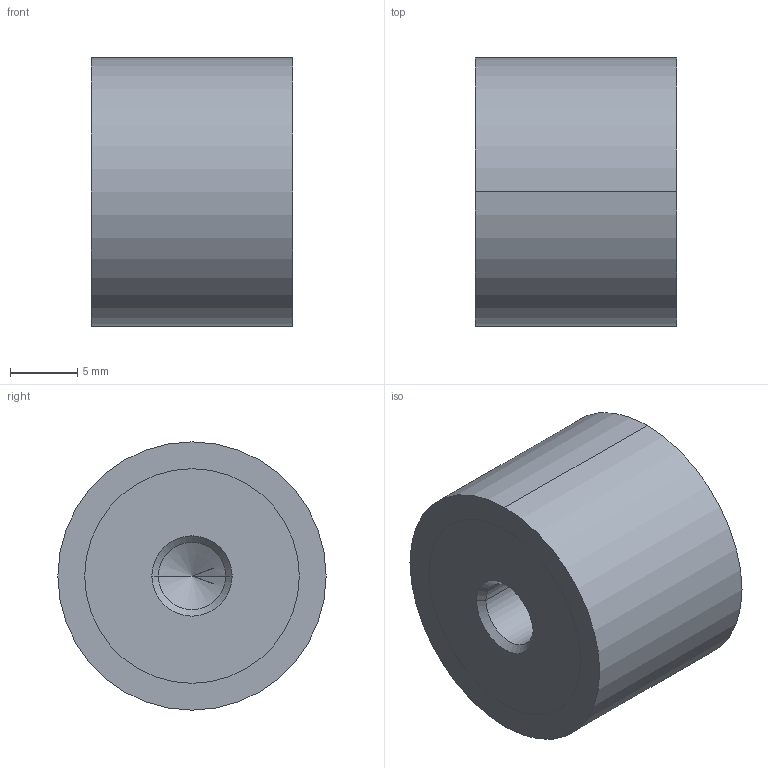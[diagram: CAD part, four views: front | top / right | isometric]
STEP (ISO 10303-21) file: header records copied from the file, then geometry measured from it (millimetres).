
FILE_DESCRIPTION (( 'STEP AP214' ), '1' );
FILE_NAME ('351-20-15-M6-EE-70.step', '2025-07-23T09:39:43', ( '' ), ( '' ), 'SwSTEP 2.0', 'SolidWorks 2022', '' );
FILE_SCHEMA (( 'AUTOMOTIVE_DESIGN' ));
Length unit declared in the file: millimetre
Products named in the file (1): 351-20-15-M6-EE-70
Bounding box: 15 x 20 x 20 mm (x, y, z)
Volume: 4451 mm3; surface area: 1757.2 mm2
Topology: 1 solids, 1 shells, 28 faces, 58 edges, 34 vertices
Faces by surface type: cylinder 14, cone 8, plane 6
Entity records: 844 total; most frequent: DIRECTION 144, CARTESIAN_POINT 117, ORIENTED_EDGE 108, AXIS2_PLACEMENT_3D 61, EDGE_CURVE 54, VERTEX_POINT 34, EDGE_LOOP 34, CIRCLE 32
